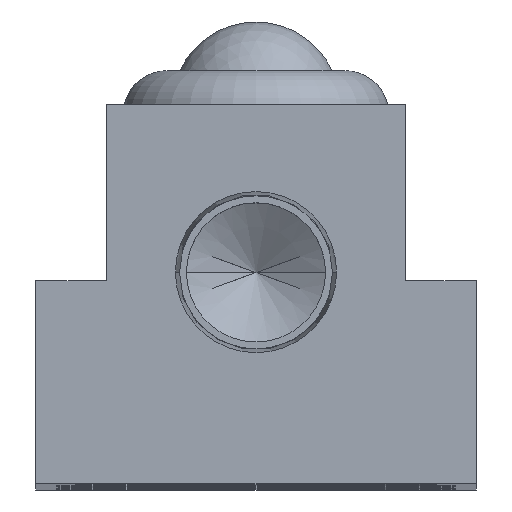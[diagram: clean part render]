
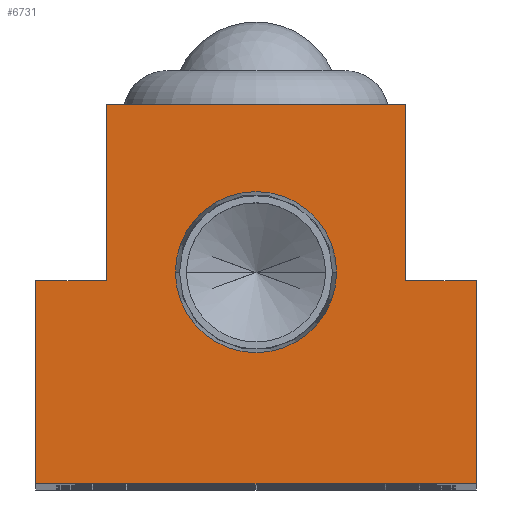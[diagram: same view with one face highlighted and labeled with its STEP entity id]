
A CAD part, top view. The second image highlights one B-rep face of the part: STEP entity #6731.
In plain terms, the highlighted planar face has unit normal (0, 0, 1).
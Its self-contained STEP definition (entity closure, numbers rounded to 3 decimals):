
#28 = CARTESIAN_POINT ( 'NONE',  ( -8.5, 21.5, 0. ) ) ;
#41 = LINE ( 'NONE', #5463, #4200 ) ;
#499 = AXIS2_PLACEMENT_3D ( 'NONE', #4759, #3155, #6957 ) ;
#519 = LINE ( 'NONE', #2495, #6123 ) ;
#542 = LINE ( 'NONE', #6462, #4709 ) ;
#570 = DIRECTION ( 'NONE',  ( 1., 0., 0. ) ) ;
#671 = EDGE_CURVE ( 'NONE', #5742, #2239, #6184, .T. ) ;
#681 = LINE ( 'NONE', #1828, #6312 ) ;
#853 = CARTESIAN_POINT ( 'NONE',  ( -12.5, 11.5, 0. ) ) ;
#987 = ORIENTED_EDGE ( 'NONE', *, *, #5103, .F. ) ;
#989 = ORIENTED_EDGE ( 'NONE', *, *, #1220, .T. ) ;
#1201 = ORIENTED_EDGE ( 'NONE', *, *, #1834, .T. ) ;
#1220 = EDGE_CURVE ( 'NONE', #5592, #3626, #681, .T. ) ;
#1339 = ORIENTED_EDGE ( 'NONE', *, *, #5205, .T. ) ;
#1347 = CIRCLE ( 'NONE', #4612, 4.574 ) ;
#1358 = CARTESIAN_POINT ( 'NONE',  ( 0., 12., 0. ) ) ;
#1472 = ORIENTED_EDGE ( 'NONE', *, *, #671, .T. ) ;
#1488 = PLANE ( 'NONE',  #499 ) ;
#1630 = ORIENTED_EDGE ( 'NONE', *, *, #2995, .T. ) ;
#1828 = CARTESIAN_POINT ( 'NONE',  ( 12.5, 0., 0. ) ) ;
#1834 = EDGE_CURVE ( 'NONE', #3626, #6759, #7048, .T. ) ;
#1844 = VECTOR ( 'NONE', #4185, 1000. ) ;
#1848 = CARTESIAN_POINT ( 'NONE',  ( -12.5, 0., 0. ) ) ;
#1905 = DIRECTION ( 'NONE',  ( 1., 0., 0. ) ) ;
#1969 = VERTEX_POINT ( 'NONE', #3998 ) ;
#1990 = EDGE_LOOP ( 'NONE', ( #6938, #987 ) ) ;
#2119 = DIRECTION ( 'NONE',  ( 0., 1., 0. ) ) ;
#2192 = DIRECTION ( 'NONE',  ( -1., 0., 0. ) ) ;
#2198 = CARTESIAN_POINT ( 'NONE',  ( -8.5, 11.5, 0. ) ) ;
#2239 = VERTEX_POINT ( 'NONE', #853 ) ;
#2425 = VERTEX_POINT ( 'NONE', #3189 ) ;
#2441 = CARTESIAN_POINT ( 'NONE',  ( 12.5, 11.5, 0. ) ) ;
#2495 = CARTESIAN_POINT ( 'NONE',  ( -12.5, 11.5, 0. ) ) ;
#2623 = CARTESIAN_POINT ( 'NONE',  ( 8.5, 11.5, 0. ) ) ;
#2722 = CARTESIAN_POINT ( 'NONE',  ( -8.5, 21.5, 0. ) ) ;
#2814 = ORIENTED_EDGE ( 'NONE', *, *, #4294, .T. ) ;
#2995 = EDGE_CURVE ( 'NONE', #4564, #5592, #5351, .T. ) ;
#3010 = DIRECTION ( 'NONE',  ( -1., 0., 0. ) ) ;
#3063 = DIRECTION ( 'NONE',  ( 0., -1., 0. ) ) ;
#3144 = EDGE_CURVE ( 'NONE', #2239, #4564, #519, .T. ) ;
#3155 = DIRECTION ( 'NONE',  ( 0., 0., 1. ) ) ;
#3189 = CARTESIAN_POINT ( 'NONE',  ( 4.574, 12., 0. ) ) ;
#3219 = CARTESIAN_POINT ( 'NONE',  ( 0., 12., 0. ) ) ;
#3531 = EDGE_LOOP ( 'NONE', ( #989, #1201, #4801, #1339, #2814, #1472, #6866, #1630 ) ) ;
#3546 = CARTESIAN_POINT ( 'NONE',  ( 12.5, 11.5, 0. ) ) ;
#3564 = FACE_BOUND ( 'NONE', #1990, .T. ) ;
#3626 = VERTEX_POINT ( 'NONE', #2441 ) ;
#3739 = VECTOR ( 'NONE', #570, 1000. ) ;
#3749 = DIRECTION ( 'NONE',  ( 1., 0., 0. ) ) ;
#3998 = CARTESIAN_POINT ( 'NONE',  ( 8.5, 21.5, 0. ) ) ;
#4149 = VECTOR ( 'NONE', #3010, 1000. ) ;
#4185 = DIRECTION ( 'NONE',  ( -1., 0., 0. ) ) ;
#4200 = VECTOR ( 'NONE', #2192, 1000. ) ;
#4243 = LINE ( 'NONE', #28, #5180 ) ;
#4293 = VERTEX_POINT ( 'NONE', #2722 ) ;
#4294 = EDGE_CURVE ( 'NONE', #4293, #5742, #4243, .T. ) ;
#4360 = DIRECTION ( 'NONE',  ( 0., -1., 0. ) ) ;
#4367 = CARTESIAN_POINT ( 'NONE',  ( -12.5, 0., 0. ) ) ;
#4564 = VERTEX_POINT ( 'NONE', #1848 ) ;
#4612 = AXIS2_PLACEMENT_3D ( 'NONE', #1358, #5167, #1905 ) ;
#4709 = VECTOR ( 'NONE', #2119, 1000. ) ;
#4759 = CARTESIAN_POINT ( 'NONE',  ( 0., 0., 0. ) ) ;
#4801 = ORIENTED_EDGE ( 'NONE', *, *, #5128, .T. ) ;
#4876 = CARTESIAN_POINT ( 'NONE',  ( -4.574, 12., 0. ) ) ;
#4880 = CIRCLE ( 'NONE', #6015, 4.574 ) ;
#4900 = EDGE_CURVE ( 'NONE', #2425, #5140, #1347, .T. ) ;
#5103 = EDGE_CURVE ( 'NONE', #5140, #2425, #4880, .T. ) ;
#5128 = EDGE_CURVE ( 'NONE', #6759, #1969, #542, .T. ) ;
#5140 = VERTEX_POINT ( 'NONE', #4876 ) ;
#5167 = DIRECTION ( 'NONE',  ( 0., 0., 1. ) ) ;
#5180 = VECTOR ( 'NONE', #4360, 1000. ) ;
#5205 = EDGE_CURVE ( 'NONE', #1969, #4293, #41, .T. ) ;
#5351 = LINE ( 'NONE', #4367, #3739 ) ;
#5366 = CARTESIAN_POINT ( 'NONE',  ( 12.5, 0., 0. ) ) ;
#5463 = CARTESIAN_POINT ( 'NONE',  ( 8.5, 21.5, 0. ) ) ;
#5592 = VERTEX_POINT ( 'NONE', #5366 ) ;
#5742 = VERTEX_POINT ( 'NONE', #2198 ) ;
#6015 = AXIS2_PLACEMENT_3D ( 'NONE', #3219, #7020, #3749 ) ;
#6123 = VECTOR ( 'NONE', #3063, 1000. ) ;
#6184 = LINE ( 'NONE', #6346, #1844 ) ;
#6291 = FACE_OUTER_BOUND ( 'NONE', #3531, .T. ) ;
#6312 = VECTOR ( 'NONE', #6702, 1000. ) ;
#6346 = CARTESIAN_POINT ( 'NONE',  ( -8.5, 11.5, 0. ) ) ;
#6462 = CARTESIAN_POINT ( 'NONE',  ( 8.5, 11.5, 0. ) ) ;
#6702 = DIRECTION ( 'NONE',  ( 0., 1., 0. ) ) ;
#6731 = ADVANCED_FACE ( 'NONE', ( #3564, #6291 ), #1488, .T. ) ;
#6759 = VERTEX_POINT ( 'NONE', #2623 ) ;
#6866 = ORIENTED_EDGE ( 'NONE', *, *, #3144, .T. ) ;
#6938 = ORIENTED_EDGE ( 'NONE', *, *, #4900, .F. ) ;
#6957 = DIRECTION ( 'NONE',  ( 1., 0., 0. ) ) ;
#7020 = DIRECTION ( 'NONE',  ( 0., 0., 1. ) ) ;
#7048 = LINE ( 'NONE', #3546, #4149 ) ;
